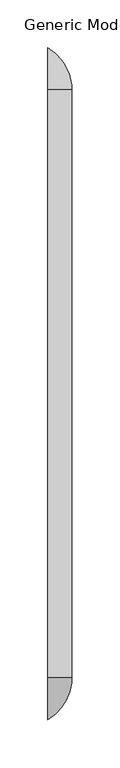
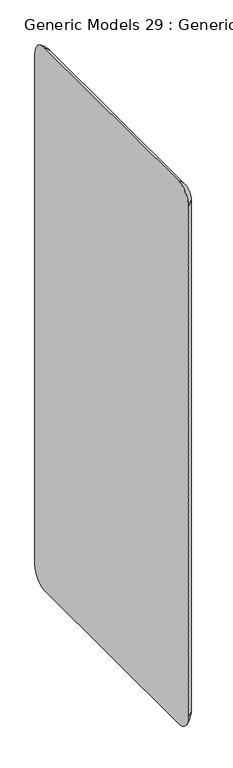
"""IFC4 building model written with IfcOpenShell, lengths in millimetres: proxy geometry, Generic Models 29 : Generic Models 14."""

from ifc_helpers import new_model, si_unit, point, frame, origin, place, context, project, spatial, circle_curve, ellipse_curve, trimmed, source, transform, mapped, element, save
from ifc_brep_helpers import plane_surface, cylinder_surface, revolved_surface, advanced_brep


def generic_models_29_generic_models_14_0a0f2d2f(model_context):
    return source(origin(), model_context, "Body", "AdvancedBrep", [
        advanced_brep(
        [(94959.7103465, 21925.9233453, 1889.4891424), (94959.7103465, 21920.8154866, 1884.3812836), (94959.7103465, 21920.8154866, 457.4399061), (94959.7103465, 21925.9233453, 452.3320473), (94959.7103465, 22539.6128596, 452.3320473), (94959.7103465, 22544.7207183, 457.4399061), (94959.7103465, 22544.7207183, 1884.3812836), (94959.7103465, 22539.6128596, 1889.4891424), (94934.7838788, 21882.0854425, 1884.3812836), (94934.7838788, 21925.9233453, 1928.2191865), (94934.7838788, 22539.6128596, 1928.2191865), (94934.7838788, 22583.4507624, 1884.3812836), (94934.7838788, 22583.4507624, 457.4399061), (94934.7838788, 22539.6128596, 413.6020032), (94934.7838788, 21925.9233453, 413.6020032), (94934.7838788, 21882.0854425, 457.4399061)],
        [
            (0, 1, circle_curve(frame((94959.7103465, 21925.9233453, 1884.3812836), z_axis=(1.0, 0.0, 0.0), x_axis=(0.0, -1.0, 0.0)), 5.1078588)),
            (1, 2),
            (2, 3, circle_curve(frame((94959.7103465, 21925.9233453, 457.4399061), z_axis=(1.0, 0.0, 0.0), x_axis=(0.0, 0.0, -1.0)), 5.1078588)),
            (3, 4),
            (4, 5, circle_curve(frame((94959.7103465, 22539.6128596, 457.4399061), z_axis=(1.0, 0.0, 0.0), x_axis=(0.0, 1.0, 0.0)), 5.1078588)),
            (5, 6),
            (6, 7, circle_curve(frame((94959.7103465, 22539.6128596, 1884.3812836), z_axis=(1.0, 0.0, 0.0), x_axis=(0.0, 0.0, 1.0)), 5.1078588)),
            (7, 0),
            (8, 9, circle_curve(frame((94934.7838788, 21925.9233453, 1884.3812836), z_axis=(-1.0, 0.0, 0.0), x_axis=(0.0, -1.0, 0.0)), 43.8379029)),
            (9, 10),
            (10, 11, circle_curve(frame((94934.7838788, 22539.6128596, 1884.3812836), z_axis=(-1.0, 0.0, 0.0), x_axis=(0.0, 0.0, 1.0)), 43.8379029)),
            (11, 12),
            (12, 13, circle_curve(frame((94934.7838788, 22539.6128596, 457.4399061), z_axis=(-1.0, 0.0, 0.0), x_axis=(0.0, 1.0, 0.0)), 43.8379029)),
            (13, 14),
            (14, 15, circle_curve(frame((94934.7838788, 21925.9233453, 457.4399061), z_axis=(-1.0, 0.0, 0.0), x_axis=(0.0, 0.0, -1.0)), 43.8379029)),
            (15, 8),
            (0, 9, circle_curve(frame((94907.6540355, 21925.9233453, 1883.3722529), z_axis=(0.0, -1.0, 0.0), x_axis=(0.0, 0.0, -1.0)), 52.4144623)),
            (8, 1, circle_curve(frame((94907.6540355, 21926.9323761, 1884.3812836), z_axis=(0.0, 0.0, 1.0), x_axis=(0.0, 1.0, 0.0)), 52.4144623)),
            (7, 10, circle_curve(frame((94907.6540355, 22539.6128596, 1883.3722529), z_axis=(0.0, -1.0, 0.0), x_axis=(0.0, 0.0, -1.0)), 52.4144623)),
            (6, 11, circle_curve(frame((94907.6540355, 22538.6038288, 1884.3812836), z_axis=(0.0, 0.0, 1.0), x_axis=(0.0, -1.0, 0.0)), 52.4144623)),
            (5, 12, circle_curve(frame((94907.6540355, 22538.6038288, 457.4399061), z_axis=(0.0, 0.0, 1.0), x_axis=(0.0, -1.0, 0.0)), 52.4144623)),
            (4, 13, circle_curve(frame((94907.6540355, 22539.6128596, 458.4489368), z_axis=(0.0, 1.0, 0.0), x_axis=(0.0, 0.0, 1.0)), 52.4144623)),
            (3, 14, circle_curve(frame((94907.6540355, 21925.9233453, 458.4489368), z_axis=(0.0, 1.0, 0.0), x_axis=(0.0, 0.0, 1.0)), 52.4144623)),
            (2, 15, circle_curve(frame((94907.6540355, 21926.9323761, 457.4399061), z_axis=(0.0, 0.0, -1.0), x_axis=(0.0, 1.0, 0.0)), 52.4144623)),
        ],
        [
            plane_surface(frame((94959.7103465, 21875.9233453, 1884.3812836), z_axis=(1.0, 0.0, 0.0), x_axis=(0.0, 0.0, -1.0))),
            plane_surface(frame((94934.7838788, 21875.9233453, 1884.3812836), z_axis=(-1.0, 0.0, 0.0), x_axis=(0.0, 0.0, 1.0))),
            revolved_surface(trimmed(ellipse_curve(frame((94907.6540355, 21926.9323761, 1884.3812836), z_axis=(0.0, 0.0, -1.0), x_axis=(0.0, 1.0, 0.0)), 52.4144623, 52.4144623), [point((94959.7103465, 21920.8154866, 1884.3812836))], [point((94919.7103465, 21875.9233453, 1884.3812836))], True, "CARTESIAN"), (94959.7103465, 21925.9233453, 1884.3812836), (-1.0, 0.0, 0.0)),
            cylinder_surface(frame((94907.6540355, 21925.9233453, 1883.3722529), z_axis=(0.0, 1.0, 0.0), x_axis=(0.0, 0.0, -1.0)), 52.4144623),
            revolved_surface(trimmed(ellipse_curve(frame((94907.6540355, 22539.6128596, 1883.3722529), z_axis=(0.0, -1.0, 0.0), x_axis=(0.0, 0.0, -1.0)), 52.4144623, 52.4144623), [point((94959.7103465, 22539.6128596, 1889.4891424))], [point((94919.7103465, 22539.6128596, 1934.3812836))], True, "CARTESIAN"), (94959.7103465, 22539.6128596, 1884.3812836), (-1.0, 0.0, 0.0)),
            cylinder_surface(frame((94907.6540355, 22538.6038288, 1884.3812836), z_axis=(0.0, 0.0, -1.0), x_axis=(0.0, -1.0, 0.0)), 52.4144623),
            revolved_surface(trimmed(ellipse_curve(frame((94907.6540355, 22538.6038288, 457.4399061), z_axis=(0.0, 0.0, 1.0), x_axis=(0.0, -1.0, 0.0)), 52.4144623, 52.4144623), [point((94959.7103465, 22544.7207183, 457.4399061))], [point((94919.7103465, 22589.6128596, 457.4399061))], True, "CARTESIAN"), (94959.7103465, 22539.6128596, 457.4399061), (-1.0, 0.0, 0.0)),
            cylinder_surface(frame((94907.6540355, 22539.6128596, 458.4489368), z_axis=(0.0, -1.0, 0.0), x_axis=(0.0, 0.0, 1.0)), 52.4144623),
            revolved_surface(trimmed(ellipse_curve(frame((94907.6540355, 21925.9233453, 458.4489368), z_axis=(0.0, 1.0, 0.0), x_axis=(0.0, 0.0, 1.0)), 52.4144623, 52.4144623), [point((94959.7103465, 21925.9233453, 452.3320473))], [point((94919.7103465, 21925.9233453, 407.4399061))], True, "CARTESIAN"), (94959.7103465, 21925.9233453, 457.4399061), (-1.0, 0.0, 0.0)),
            cylinder_surface(frame((94907.6540355, 21926.9323761, 457.4399061), z_axis=(0.0, 0.0, 1.0), x_axis=(0.0, 1.0, 0.0)), 52.4144623),
        ],
        [
            (0, [[1, 2, 3, 4, 5, 6, 7, 8]]),
            (1, [[9, 10, 11, 12, 13, 14, 15, 16]]),
            (2, [[17, -9, 18, -1]]),
            (3, [[-17, -8, 19, -10]]),
            (4, [[-19, -7, 20, -11]]),
            (5, [[-20, -6, 21, -12]]),
            (6, [[-21, -5, 22, -13]]),
            (7, [[-22, -4, 23, -14]]),
            (8, [[-23, -3, 24, -15]]),
            (9, [[-24, -2, -18, -16]]),
        ],
    ),
    ])


if __name__ == "__main__":
    model = new_model("IFC4")
    model_context = context("Model", 3, world=origin())
    ifc_project = project(units=[si_unit("LENGTHUNIT", "METRE", prefix="MILLI")], contexts=[model_context])
    site = spatial("IfcSite", under=ifc_project)
    building = spatial("IfcBuilding", under=site)
    placement = place(None, origin())
    generic_models_29_generic_models_14_shape = generic_models_29_generic_models_14_0a0f2d2f(model_context)
    element("IfcBuildingElementProxy", 1, Name="Generic Models 29 : Generic Models 14", ObjectType="Generic Models 29 : Generic Models 14", at=placement, inside=building, context=model_context, shape_type="MappedRepresentation", body=[
        mapped(generic_models_29_generic_models_14_shape, transform((0.0, 0.0, 0.0), x_axis=(1.0, 0.0, 0.0), y_axis=(0.0, 1.0, 0.0), z_axis=(0.0, 0.0, 1.0))),
    ])
    save(model, "model.ifc")
